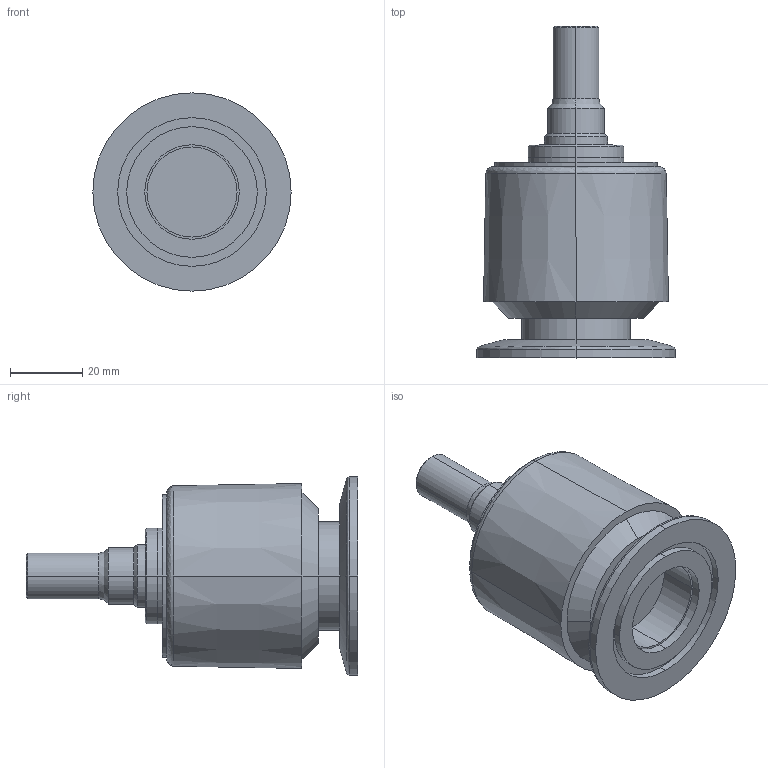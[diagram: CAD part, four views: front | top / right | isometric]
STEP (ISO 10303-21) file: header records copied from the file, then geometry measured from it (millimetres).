
FILE_DESCRIPTION((''),'2;1');
FILE_NAME('U:\Projekte\11741 3D Modelle\Leybold\13646.stp','2004-12-17T08:36:51',('BEM'),(''),'Autodesk Inventor 9','Autodesk Inventor 9','');
FILE_SCHEMA(('AUTOMOTIVE_DESIGN { 1 0 10303 214 1 1 1 1 }'));
Length unit declared in the file: millimetre
Products named in the file (1): 13646
Bounding box: 55 x 92 x 55 mm (x, y, z)
Volume: 96623.4 mm3; surface area: 18986.4 mm2
Topology: 1 solids, 1 shells, 118 faces, 274 edges, 174 vertices
Faces by surface type: cylinder 68, cone 24, plane 18, bspline 8
Entity records: 3775 total; most frequent: CARTESIAN_POINT 919, DIRECTION 678, ORIENTED_EDGE 548, AXIS2_PLACEMENT_3D 293, EDGE_CURVE 274, CIRCLE 182, VERTEX_POINT 174, EDGE_LOOP 134
